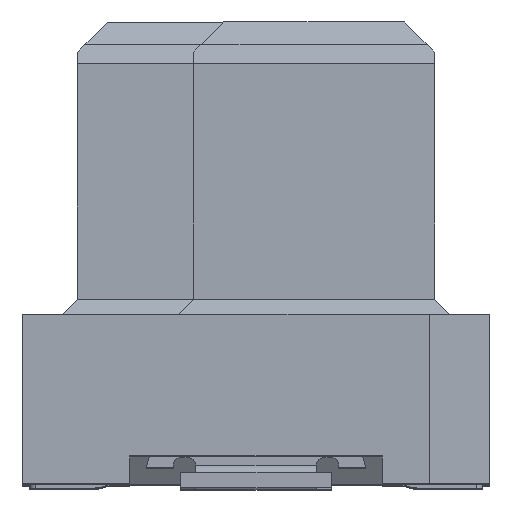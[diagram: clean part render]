
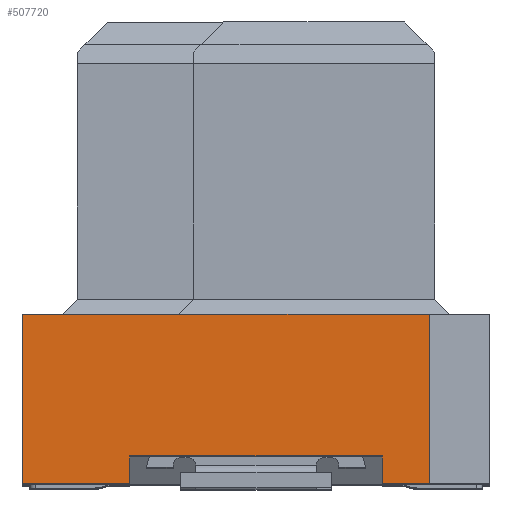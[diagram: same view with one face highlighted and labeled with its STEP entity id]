
A CAD part, top view. The second image highlights one B-rep face of the part: STEP entity #507720.
In plain terms, the highlighted planar face has unit normal (0, 0, 1).
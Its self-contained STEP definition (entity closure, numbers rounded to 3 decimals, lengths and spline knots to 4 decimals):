
#502340=CARTESIAN_POINT('',(5.4,4.25,12.31));
#502350=VERTEX_POINT('',#502340);
#502380=CARTESIAN_POINT('',(5.47,4.25,12.31));
#502390=DIRECTION('',(-1.,0.,0.));
#502400=VECTOR('',#502390,1.);
#502410=LINE('',#502380,#502400);
#502420=CARTESIAN_POINT('',(0.,4.25,12.31));
#502430=VERTEX_POINT('',#502420);
#502440=EDGE_CURVE('',#502350,#502430,#502410,.T.);
#505040=CARTESIAN_POINT('',(0.,0.,12.31));
#505050=DIRECTION('',(0.,-1.,0.));
#505060=VECTOR('',#505050,1.);
#505070=LINE('',#505040,#505060);
#505080=CARTESIAN_POINT('',(0.,2.,12.31));
#505090=VERTEX_POINT('',#505080);
#505100=EDGE_CURVE('',#502430,#505090,#505070,.T.);
#505270=CARTESIAN_POINT('',(5.47,2.,12.31));
#505280=DIRECTION('',(-1.,0.,0.));
#505290=VECTOR('',#505280,1.);
#505300=LINE('',#505270,#505290);
#505310=CARTESIAN_POINT('',(1.425,2.,12.31));
#505320=VERTEX_POINT('',#505310);
#505330=EDGE_CURVE('',#505320,#505090,#505300,.T.);
#505550=CARTESIAN_POINT('',(4.775,2.,12.31));
#505560=VERTEX_POINT('',#505550);
#505590=CARTESIAN_POINT('',(5.4,2.,12.31));
#505600=VERTEX_POINT('',#505590);
#505610=EDGE_CURVE('',#505600,#505560,#505300,.T.);
#507330=CARTESIAN_POINT('',(5.47,4.25,12.31));
#507340=DIRECTION('',(0.,-0.,1.));
#507350=DIRECTION('',(0.,1.,0.));
#507360=AXIS2_PLACEMENT_3D('',#507330,#507340,#507350);
#507370=PLANE('',#507360);
#507380=ORIENTED_EDGE('',*,*,#505100,.T.);
#507390=ORIENTED_EDGE('',*,*,#502440,.T.);
#507400=CARTESIAN_POINT('',(5.4,2.125,12.31));
#507410=DIRECTION('',(0.,1.,0.));
#507420=VECTOR('',#507410,1.);
#507430=LINE('',#507400,#507420);
#507440=EDGE_CURVE('',#505600,#502350,#507430,.T.);
#507450=ORIENTED_EDGE('',*,*,#507440,.T.);
#507460=ORIENTED_EDGE('',*,*,#505610,.F.);
#507470=CARTESIAN_POINT('',(4.775,2.,12.31));
#507480=DIRECTION('',(0.,-1.,0.));
#507490=VECTOR('',#507480,1.);
#507500=LINE('',#507470,#507490);
#507510=CARTESIAN_POINT('',(4.775,2.37,12.31));
#507520=VERTEX_POINT('',#507510);
#507530=EDGE_CURVE('',#507520,#505560,#507500,.T.);
#507540=ORIENTED_EDGE('',*,*,#507530,.T.);
#507550=CARTESIAN_POINT('',(0.,2.37,12.31));
#507560=DIRECTION('',(1.,0.,0.));
#507570=VECTOR('',#507560,1.);
#507580=LINE('',#507550,#507570);
#507590=CARTESIAN_POINT('',(1.425,2.37,12.31));
#507600=VERTEX_POINT('',#507590);
#507610=EDGE_CURVE('',#507600,#507520,#507580,.T.);
#507620=ORIENTED_EDGE('',*,*,#507610,.T.);
#507630=CARTESIAN_POINT('',(1.425,2.,12.31));
#507640=DIRECTION('',(0.,1.,0.));
#507650=VECTOR('',#507640,1.);
#507660=LINE('',#507630,#507650);
#507670=EDGE_CURVE('',#505320,#507600,#507660,.T.);
#507680=ORIENTED_EDGE('',*,*,#507670,.T.);
#507690=ORIENTED_EDGE('',*,*,#505330,.F.);
#507700=EDGE_LOOP('',(#507690,#507680,#507620,#507540,#507460,#507450,
#507390,#507380));
#507710=FACE_OUTER_BOUND('',#507700,.T.);
#507720=ADVANCED_FACE('',(#507710),#507370,.T.);
